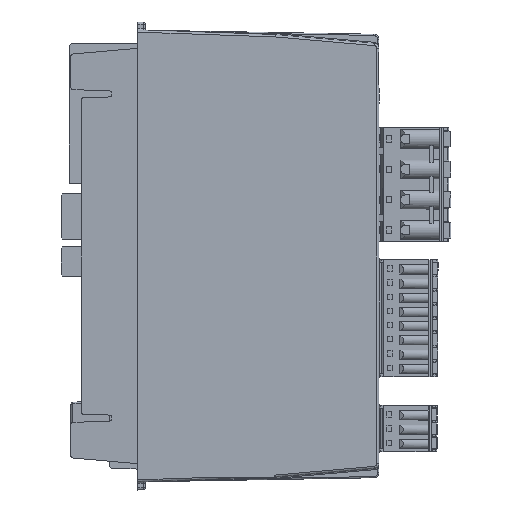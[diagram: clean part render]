
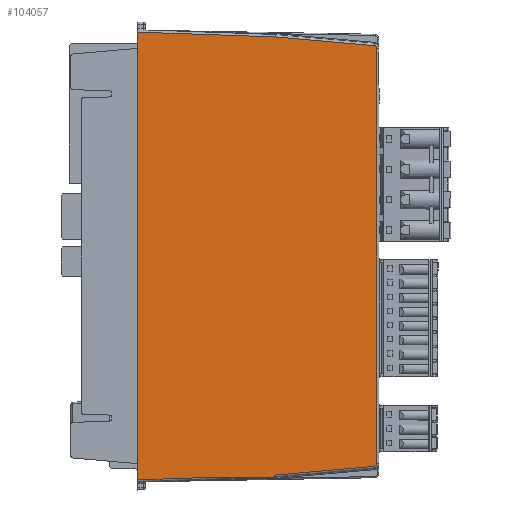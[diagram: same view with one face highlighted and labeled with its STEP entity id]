
A CAD part, left-side view. The second image highlights one B-rep face of the part: STEP entity #104057.
In plain terms, the highlighted planar face has unit normal (-1, -0.018, 0).
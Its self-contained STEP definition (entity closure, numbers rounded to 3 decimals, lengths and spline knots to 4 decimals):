
#738=ELLIPSE('',#111432,0.0315,0.0315);
#739=ELLIPSE('',#111433,0.0315,0.0315);
#4977=PLANE('',#111431);
#10812=FACE_OUTER_BOUND('',#16448,.T.);
#16448=EDGE_LOOP('',(#89945,#89946,#89947,#89948,#89949,#89950,#89951,#89952,
#89953,#89954,#89955,#89956,#89957));
#29449=LINE('',#169006,#40603);
#29462=LINE('',#169078,#40616);
#29545=LINE('',#169417,#40699);
#29868=LINE('',#170452,#41022);
#29869=LINE('',#170454,#41023);
#29870=LINE('',#170458,#41024);
#29871=LINE('',#170462,#41025);
#29872=LINE('',#170464,#41026);
#29873=LINE('',#170466,#41027);
#29874=LINE('',#170468,#41028);
#29875=LINE('',#170469,#41029);
#40603=VECTOR('',#134861,0.3937);
#40616=VECTOR('',#134902,0.3937);
#40699=VECTOR('',#135171,39.3701);
#41022=VECTOR('',#135914,39.3701);
#41023=VECTOR('',#135915,39.3701);
#41024=VECTOR('',#135918,39.3701);
#41025=VECTOR('',#135921,39.3701);
#41026=VECTOR('',#135922,39.3701);
#41027=VECTOR('',#135923,39.3701);
#41028=VECTOR('',#135924,39.3701);
#41029=VECTOR('',#135925,39.3701);
#49754=VERTEX_POINT('',#169002);
#49756=VERTEX_POINT('',#169005);
#49778=VERTEX_POINT('',#169073);
#49885=VERTEX_POINT('',#169416);
#50191=VERTEX_POINT('',#170451);
#50192=VERTEX_POINT('',#170453);
#50193=VERTEX_POINT('',#170455);
#50194=VERTEX_POINT('',#170457);
#50195=VERTEX_POINT('',#170459);
#50196=VERTEX_POINT('',#170461);
#50197=VERTEX_POINT('',#170463);
#50198=VERTEX_POINT('',#170465);
#50199=VERTEX_POINT('',#170467);
#63034=EDGE_CURVE('',#49754,#49756,#29449,.T.);
#63061=EDGE_CURVE('',#49756,#49778,#29462,.T.);
#63205=EDGE_CURVE('',#49885,#49778,#29545,.T.);
#63637=EDGE_CURVE('',#49754,#50191,#29868,.T.);
#63638=EDGE_CURVE('',#50191,#50192,#29869,.T.);
#63639=EDGE_CURVE('',#50192,#50193,#738,.T.);
#63640=EDGE_CURVE('',#50193,#50194,#29870,.T.);
#63641=EDGE_CURVE('',#50194,#50195,#739,.T.);
#63642=EDGE_CURVE('',#50195,#50196,#29871,.T.);
#63643=EDGE_CURVE('',#50196,#50197,#29872,.T.);
#63644=EDGE_CURVE('',#50197,#50198,#29873,.T.);
#63645=EDGE_CURVE('',#50199,#50198,#29874,.T.);
#63646=EDGE_CURVE('',#50199,#49885,#29875,.T.);
#89945=ORIENTED_EDGE('',*,*,#63637,.T.);
#89946=ORIENTED_EDGE('',*,*,#63638,.T.);
#89947=ORIENTED_EDGE('',*,*,#63639,.T.);
#89948=ORIENTED_EDGE('',*,*,#63640,.T.);
#89949=ORIENTED_EDGE('',*,*,#63641,.T.);
#89950=ORIENTED_EDGE('',*,*,#63642,.T.);
#89951=ORIENTED_EDGE('',*,*,#63643,.T.);
#89952=ORIENTED_EDGE('',*,*,#63644,.T.);
#89953=ORIENTED_EDGE('',*,*,#63645,.F.);
#89954=ORIENTED_EDGE('',*,*,#63646,.T.);
#89955=ORIENTED_EDGE('',*,*,#63205,.T.);
#89956=ORIENTED_EDGE('',*,*,#63061,.F.);
#89957=ORIENTED_EDGE('',*,*,#63034,.F.);
#104057=ADVANCED_FACE('',(#10812),#4977,.T.);
#111431=AXIS2_PLACEMENT_3D('',#170450,#135912,#135913);
#111432=AXIS2_PLACEMENT_3D('',#170456,#135916,#135917);
#111433=AXIS2_PLACEMENT_3D('',#170460,#135919,#135920);
#134861=DIRECTION('',(0.,0.,-1.));
#134902=DIRECTION('',(-0.017,1.,0.));
#135171=DIRECTION('',(0.017,-0.999,0.035));
#135912=DIRECTION('center_axis',(-1.,-0.017,
0.));
#135913=DIRECTION('ref_axis',(-0.017,1.,0.));
#135914=DIRECTION('',(0.017,-0.999,0.035));
#135915=DIRECTION('',(0.017,-0.996,0.087));
#135916=DIRECTION('center_axis',(-1.,-0.017,
0.));
#135917=DIRECTION('ref_axis',(0.017,-1.,0.));
#135918=DIRECTION('',(0.,0.,1.));
#135919=DIRECTION('center_axis',(-1.,-0.017,
0.));
#135920=DIRECTION('ref_axis',(0.017,-1.,0.));
#135921=DIRECTION('',(-0.017,0.996,0.087));
#135922=DIRECTION('',(-0.017,0.999,0.035));
#135923=DIRECTION('',(0.,0.,-1.));
#135924=DIRECTION('',(0.,0.,1.));
#135925=DIRECTION('',(0.,0.,-1.));
#169002=CARTESIAN_POINT('',(0.0005,-2.2096,-4.1958));
#169005=CARTESIAN_POINT('',(0.0005,-2.2096,-4.2206));
#169006=CARTESIAN_POINT('',(0.0005,-2.2096,-3.155));
#169073=CARTESIAN_POINT('',(-0.0119,-1.4997,-4.2206));
#169078=CARTESIAN_POINT('',(-0.0131,-1.4351,-4.2206));
#169416=CARTESIAN_POINT('',(-0.0227,-0.8827,-4.2421));
#169417=CARTESIAN_POINT('',(-0.0282,-0.5654,-4.2532));
#170450=CARTESIAN_POINT('Origin',(-0.0296,-0.489,
-2.0669));
#170451=CARTESIAN_POINT('',(0.0007,-2.2205,-4.1954));
#170452=CARTESIAN_POINT('',(-0.0282,-0.5654,-4.2532));
#170453=CARTESIAN_POINT('',(0.0174,-3.1772,-4.1117));
#170454=CARTESIAN_POINT('',(-0.0261,-0.6869,-4.3296));
#170455=CARTESIAN_POINT('',(0.0179,-3.2059,-4.0803));
#170456=CARTESIAN_POINT('Origin',(0.0173,-3.1744,
-4.0803));
#170457=CARTESIAN_POINT('',(0.0179,-3.2059,-0.0535));
#170458=CARTESIAN_POINT('',(0.0179,-3.2059,-0.0535));
#170459=CARTESIAN_POINT('',(0.0174,-3.1772,-0.0221));
#170460=CARTESIAN_POINT('Origin',(0.0173,-3.1744,
-0.0535));
#170461=CARTESIAN_POINT('',(0.0007,-2.2205,0.0616));
#170462=CARTESIAN_POINT('',(-0.0261,-0.6869,0.1957));
#170463=CARTESIAN_POINT('',(-0.0227,-0.8827,0.1083));
#170464=CARTESIAN_POINT('',(-0.0282,-0.5654,0.1194));
#170465=CARTESIAN_POINT('',(-0.0227,-0.8827,-0.0312));
#170466=CARTESIAN_POINT('',(-0.0227,-0.8827,0.128));
#170467=CARTESIAN_POINT('',(-0.0227,-0.8827,-4.1027));
#170468=CARTESIAN_POINT('',(-0.0227,-0.8827,-7.5932));
#170469=CARTESIAN_POINT('',(-0.0227,-0.8827,0.128));
